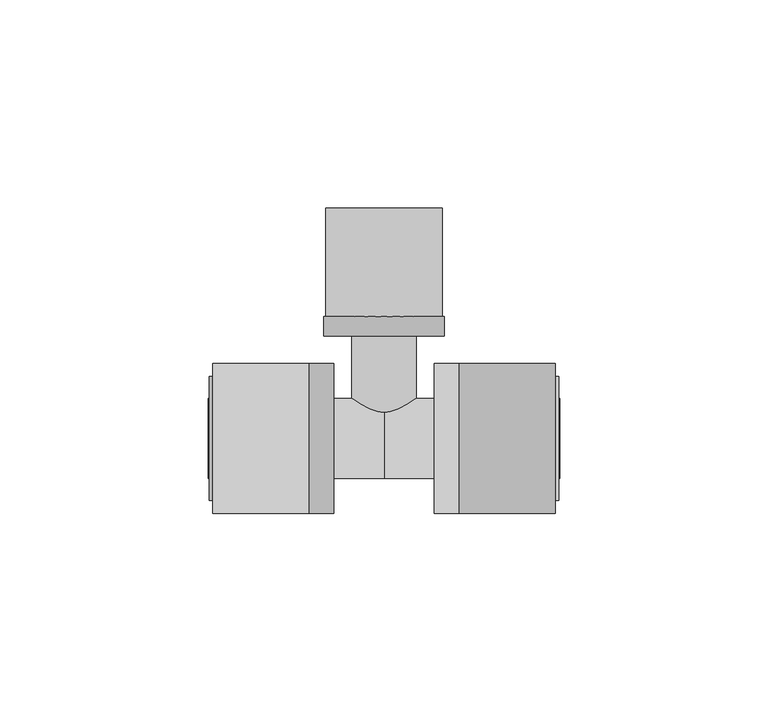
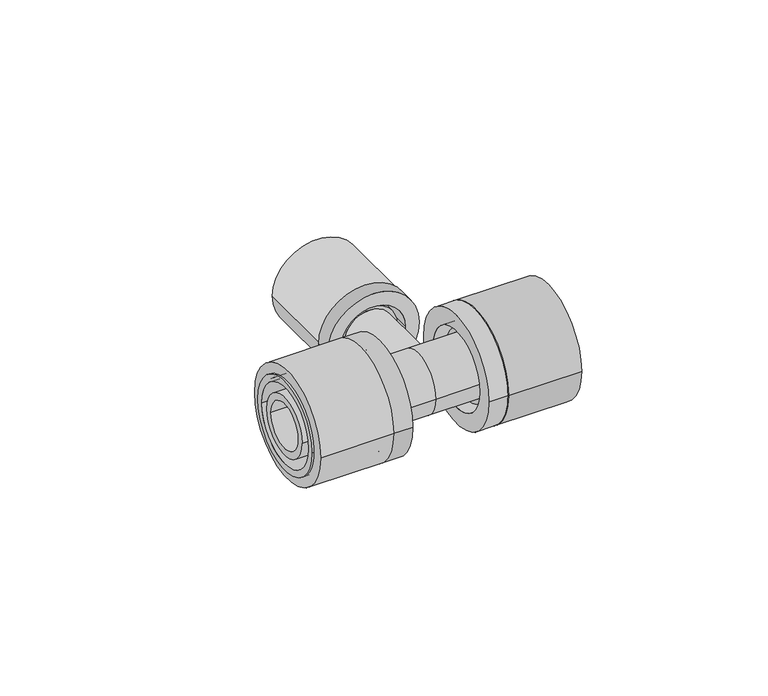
"""IFC4 building model written with IfcOpenShell, lengths in millimetres: pipe fitting geometry, FASTLOC_T-piece_LX : FSL T-Piece LX CZ."""

from ifc_helpers import new_model, si_unit, point, frame, origin, origin_2d, place, context, project, spatial, polyline, circle_curve, trimmed, segment, composite_curve, outline, extrude, source, transform, mapped, element, save
from ifc_brep_helpers import plane_surface, cylinder_surface, revolved_surface, advanced_brep


def pipe_fitting_d9a56b63(model_context):
    return source(origin(), model_context, "Body", "SolidModel", [
        extrude(outline(composite_curve([segment(trimmed(circle_curve(origin_2d(), 18.0), [point((-18.0, 0.0))], [point((18.0, 0.0))], False, "CARTESIAN"), True, "CONTINUOUS"), segment(trimmed(circle_curve(origin_2d(), 18.0), [point((18.0, 0.0))], [point((-18.0, 0.0))], False, "CARTESIAN"), True, "CONTINUOUS")], self_intersect=False), holes=[composite_curve([segment(trimmed(circle_curve(origin_2d(), 13.5), [point((-13.5, 0.0))], [point((13.5, 0.0))], True, "CARTESIAN"), True, "CONTINUOUS"), segment(trimmed(circle_curve(origin_2d(), 13.5), [point((13.5, 0.0))], [point((-13.5, 0.0))], True, "CARTESIAN"), True, "CONTINUOUS")], self_intersect=False)]), frame((18.1, 0.0, 0.0), z_axis=(1.0, 0.0, 0.0), x_axis=(0.0, 1.0, 0.0)), (0.0, 0.0, 1.0), 23.0),
        advanced_brep(
        [(18.1, 18.0, 0.0), (18.1, -18.0, 0.0), (12.1, -18.0, 0.0), (12.1, 18.0, 0.0), (41.9, 14.85, 0.0), (41.9, -14.85, 0.0), (18.1, -14.85, 0.0), (18.1, 14.85, 0.0), (12.1, 12.65, 0.0), (12.1, -12.65, 0.0), (41.9, -12.65, 0.0), (41.9, 12.65, 0.0)],
        [
            (0, 1, circle_curve(frame((18.1, 0.0, 0.0), z_axis=(-1.0, 0.0, 0.0), x_axis=(0.0, -1.0, 0.0)), 18.0)),
            (1, 2),
            (2, 3, circle_curve(frame((12.1, 0.0, 0.0), z_axis=(1.0, 0.0, 0.0), x_axis=(0.0, -1.0, 0.0)), 18.0)),
            (3, 0),
            (4, 5, circle_curve(frame((41.9, 0.0, 0.0), z_axis=(-1.0, 0.0, 0.0), x_axis=(0.0, -1.0, 0.0)), 14.85)),
            (5, 6),
            (6, 7, circle_curve(frame((18.1, 0.0, 0.0), z_axis=(1.0, 0.0, 0.0), x_axis=(0.0, -1.0, 0.0)), 14.85)),
            (7, 4),
            (8, 9, circle_curve(frame((12.1, 0.0, 0.0), z_axis=(-1.0, 0.0, 0.0), x_axis=(0.0, -1.0, 0.0)), 12.65)),
            (9, 10),
            (10, 11, circle_curve(frame((41.9, 0.0, 0.0), z_axis=(1.0, 0.0, 0.0), x_axis=(0.0, -1.0, 0.0)), 12.65)),
            (11, 8),
            (1, 0, circle_curve(frame((18.1, 0.0, 0.0), z_axis=(-1.0, 0.0, 0.0), x_axis=(0.0, 1.0, 0.0)), 18.0)),
            (3, 2, circle_curve(frame((12.1, 0.0, 0.0), z_axis=(1.0, 0.0, 0.0), x_axis=(0.0, 1.0, 0.0)), 18.0)),
            (6, 7, circle_curve(frame((18.1, 0.0, 0.0), z_axis=(-1.0, 0.0, 0.0), x_axis=(0.0, 1.0, 0.0)), 14.85)),
            (5, 4, circle_curve(frame((41.9, 0.0, 0.0), z_axis=(-1.0, 0.0, 0.0), x_axis=(0.0, 1.0, 0.0)), 14.85)),
            (10, 11, circle_curve(frame((41.9, 0.0, 0.0), z_axis=(-1.0, 0.0, 0.0), x_axis=(0.0, 1.0, 0.0)), 12.65)),
            (9, 8, circle_curve(frame((12.1, 0.0, 0.0), z_axis=(-1.0, 0.0, 0.0), x_axis=(0.0, 1.0, 0.0)), 12.65)),
        ],
        [
            cylinder_surface(frame((12.1, 0.0, 0.0), z_axis=(1.0, 0.0, 0.0), x_axis=(0.0, -1.0, 0.0)), 18.0),
            cylinder_surface(frame((12.1, 0.0, 0.0), z_axis=(1.0, 0.0, 0.0), x_axis=(0.0, -1.0, 0.0)), 14.85),
            revolved_surface(polyline([(41.9, -12.65, 0.0), (12.1, -12.65, 0.0)]), (12.1, 0.0, 0.0), (1.0, 0.0, 0.0)),
            cylinder_surface(frame((12.1, 0.0, 0.0), z_axis=(1.0, 0.0, 0.0), x_axis=(0.0, 1.0, 0.0)), 18.0),
            plane_surface(frame((18.1, 0.0, 0.0), z_axis=(1.0, 0.0, 0.0), x_axis=(0.0, 1.0, 0.0))),
            cylinder_surface(frame((12.1, 0.0, 0.0), z_axis=(1.0, 0.0, 0.0), x_axis=(0.0, 1.0, 0.0)), 14.85),
            plane_surface(frame((41.9, 0.0, 0.0), z_axis=(1.0, 0.0, 0.0), x_axis=(0.0, 1.0, 0.0))),
            revolved_surface(polyline([(41.9, 12.65, 0.0), (12.1, 12.65, 0.0)]), (12.1, 0.0, 0.0), (1.0, 0.0, 0.0)),
            plane_surface(frame((12.1, 0.0, 0.0), z_axis=(-1.0, 0.0, 0.0), x_axis=(0.0, 1.0, 0.0))),
        ],
        [
            (0, [[1, 2, 3, 4]]),
            (1, [[5, 6, 7, 8]]),
            (2, [[9, 10, 11, 12]]),
            (3, [[13, -4, 14, -2]]),
            (4, [[-13, -1], [15, -7]]),
            (5, [[16, -8, -15, -6]]),
            (6, [[-16, -5], [17, -11]]),
            (7, [[18, -12, -17, -10]]),
            (8, [[-14, -3], [-18, -9]]),
        ],
    ),
        extrude(outline(composite_curve([segment(trimmed(circle_curve(origin_2d(), 18.0), [point((18.0, 0.0))], [point((-18.0, 0.0))], False, "CARTESIAN"), True, "CONTINUOUS"), segment(trimmed(circle_curve(origin_2d(), 18.0), [point((-18.0, 0.0))], [point((18.0, 0.0))], False, "CARTESIAN"), True, "CONTINUOUS")], self_intersect=False), holes=[composite_curve([segment(trimmed(circle_curve(origin_2d(), 13.5), [point((13.5, 0.0))], [point((-13.5, 0.0))], True, "CARTESIAN"), True, "CONTINUOUS"), segment(trimmed(circle_curve(origin_2d(), 13.5), [point((-13.5, 0.0))], [point((13.5, 0.0))], True, "CARTESIAN"), True, "CONTINUOUS")], self_intersect=False)]), frame((-41.1, 0.0, 0.0), z_axis=(1.0, 0.0, 0.0), x_axis=(0.0, 1.0, 0.0)), (0.0, 0.0, 1.0), 23.0),
        advanced_brep(
        [(-18.1, -18.0, 0.0), (-18.1, 18.0, 0.0), (-12.1, 18.0, 0.0), (-12.1, -18.0, 0.0), (-41.9, -14.85, 0.0), (-41.9, 14.85, 0.0), (-18.1, 14.85, 0.0), (-18.1, -14.85, 0.0), (-12.1, -12.65, 0.0), (-12.1, 12.65, 0.0), (-41.9, 12.65, 0.0), (-41.9, -12.65, 0.0)],
        [
            (0, 1, circle_curve(frame((-18.1, 0.0, 0.0), z_axis=(1.0, 0.0, 0.0), x_axis=(0.0, 1.0, 0.0)), 18.0)),
            (1, 2),
            (2, 3, circle_curve(frame((-12.1, 0.0, 0.0), z_axis=(-1.0, 0.0, 0.0), x_axis=(0.0, 1.0, 0.0)), 18.0)),
            (3, 0),
            (4, 5, circle_curve(frame((-41.9, 0.0, 0.0), z_axis=(1.0, 0.0, 0.0), x_axis=(0.0, 1.0, 0.0)), 14.85)),
            (5, 6),
            (6, 7, circle_curve(frame((-18.1, 0.0, 0.0), z_axis=(-1.0, 0.0, 0.0), x_axis=(0.0, 1.0, 0.0)), 14.85)),
            (7, 4),
            (8, 9, circle_curve(frame((-12.1, 0.0, 0.0), z_axis=(1.0, 0.0, 0.0), x_axis=(0.0, 1.0, 0.0)), 12.65)),
            (9, 10),
            (10, 11, circle_curve(frame((-41.9, 0.0, 0.0), z_axis=(-1.0, 0.0, 0.0), x_axis=(0.0, 1.0, 0.0)), 12.65)),
            (11, 8),
            (1, 0, circle_curve(frame((-18.1, 0.0, 0.0), z_axis=(1.0, 0.0, 0.0), x_axis=(0.0, -1.0, 0.0)), 18.0)),
            (3, 2, circle_curve(frame((-12.1, 0.0, 0.0), z_axis=(-1.0, 0.0, 0.0), x_axis=(0.0, -1.0, 0.0)), 18.0)),
            (6, 7, circle_curve(frame((-18.1, 0.0, 0.0), z_axis=(1.0, 0.0, 0.0), x_axis=(0.0, -1.0, 0.0)), 14.85)),
            (5, 4, circle_curve(frame((-41.9, 0.0, 0.0), z_axis=(1.0, 0.0, 0.0), x_axis=(0.0, -1.0, 0.0)), 14.85)),
            (10, 11, circle_curve(frame((-41.9, 0.0, 0.0), z_axis=(1.0, 0.0, 0.0), x_axis=(0.0, -1.0, 0.0)), 12.65)),
            (9, 8, circle_curve(frame((-12.1, 0.0, 0.0), z_axis=(1.0, 0.0, 0.0), x_axis=(0.0, -1.0, 0.0)), 12.65)),
        ],
        [
            cylinder_surface(frame((-12.1, 0.0, 0.0), z_axis=(-1.0, 0.0, 0.0), x_axis=(0.0, 1.0, 0.0)), 18.0),
            cylinder_surface(frame((-12.1, 0.0, 0.0), z_axis=(-1.0, 0.0, 0.0), x_axis=(0.0, 1.0, 0.0)), 14.85),
            revolved_surface(polyline([(-41.9, 12.65, 0.0), (-12.1, 12.65, 0.0)]), (-12.1, 0.0, 0.0), (-1.0, 0.0, 0.0)),
            cylinder_surface(frame((-12.1, 0.0, 0.0), z_axis=(-1.0, 0.0, 0.0), x_axis=(0.0, -1.0, 0.0)), 18.0),
            plane_surface(frame((-18.1, 0.0, 0.0), z_axis=(-1.0, 0.0, 0.0), x_axis=(0.0, -1.0, 0.0))),
            cylinder_surface(frame((-12.1, 0.0, 0.0), z_axis=(-1.0, 0.0, 0.0), x_axis=(0.0, -1.0, 0.0)), 14.85),
            plane_surface(frame((-41.9, 0.0, 0.0), z_axis=(-1.0, 0.0, 0.0), x_axis=(0.0, -1.0, 0.0))),
            revolved_surface(polyline([(-41.9, -12.65, 0.0), (-12.1, -12.65, 0.0)]), (-12.1, 0.0, 0.0), (-1.0, 0.0, 0.0)),
            plane_surface(frame((-12.1, 0.0, 0.0), z_axis=(1.0, 0.0, 0.0), x_axis=(0.0, -1.0, 0.0))),
        ],
        [
            (0, [[1, 2, 3, 4]]),
            (1, [[5, 6, 7, 8]]),
            (2, [[9, 10, 11, 12]]),
            (3, [[13, -4, 14, -2]]),
            (4, [[-13, -1], [15, -7]]),
            (5, [[16, -8, -15, -6]]),
            (6, [[-16, -5], [17, -11]]),
            (7, [[18, -12, -17, -10]]),
            (8, [[-14, -3], [-18, -9]]),
        ],
    ),
        extrude(outline(composite_curve([segment(trimmed(circle_curve(origin_2d(), 14.0), [point((0.0, 14.0))], [point((0.0, -14.0))], False, "CARTESIAN"), True, "CONTINUOUS"), segment(trimmed(circle_curve(origin_2d(), 14.0), [point((0.0, -14.0))], [point((0.0, 14.0))], False, "CARTESIAN"), True, "CONTINUOUS")], self_intersect=False), holes=[composite_curve([segment(trimmed(circle_curve(origin_2d(), 10.7), [point((0.0, 10.7))], [point((0.0, -10.7))], True, "CARTESIAN"), True, "CONTINUOUS"), segment(trimmed(circle_curve(origin_2d(), 10.7), [point((0.0, -10.7))], [point((0.0, 10.7))], True, "CARTESIAN"), True, "CONTINUOUS")], self_intersect=False)]), frame((0.0, 29.2, 0.0), z_axis=(0.0, 1.0, 0.0), x_axis=(0.0, 0.0, 1.0)), (0.0, 0.0, 1.0), 26.0),
        advanced_brep(
        [(-14.5, 29.2, 0.0), (14.5, 29.2, 0.0), (14.5, 24.5, 0.0), (-14.5, 24.5, 0.0), (-11.85, 46.2, 0.0), (11.85, 46.2, 0.0), (11.85, 29.2, 0.0), (-11.85, 29.2, 0.0), (-10.15, 24.5, 0.0), (10.15, 24.5, 0.0), (10.15, 46.2, 0.0), (-10.15, 46.2, 0.0)],
        [
            (0, 1, circle_curve(frame((0.0, 29.2, 0.0), z_axis=(0.0, -1.0, 0.0), x_axis=(1.0, 0.0, 0.0)), 14.5)),
            (1, 2),
            (2, 3, circle_curve(frame((0.0, 24.5, 0.0), z_axis=(0.0, 1.0, 0.0), x_axis=(1.0, 0.0, 0.0)), 14.5)),
            (3, 0),
            (4, 5, circle_curve(frame((0.0, 46.2, 0.0), z_axis=(0.0, -1.0, 0.0), x_axis=(1.0, 0.0, 0.0)), 11.85)),
            (5, 6),
            (6, 7, circle_curve(frame((0.0, 29.2, 0.0), z_axis=(0.0, 1.0, 0.0), x_axis=(1.0, 0.0, 0.0)), 11.85)),
            (7, 4),
            (8, 9, circle_curve(frame((0.0, 24.5, 0.0), z_axis=(0.0, -1.0, 0.0), x_axis=(1.0, 0.0, 0.0)), 10.15)),
            (9, 10),
            (10, 11, circle_curve(frame((0.0, 46.2, 0.0), z_axis=(0.0, 1.0, 0.0), x_axis=(1.0, 0.0, 0.0)), 10.15)),
            (11, 8),
            (1, 0, circle_curve(frame((0.0, 29.2, 0.0), z_axis=(0.0, -1.0, 0.0), x_axis=(-1.0, 0.0, 0.0)), 14.5)),
            (3, 2, circle_curve(frame((0.0, 24.5, 0.0), z_axis=(0.0, 1.0, 0.0), x_axis=(-1.0, 0.0, 0.0)), 14.5)),
            (6, 7, circle_curve(frame((0.0, 29.2, 0.0), z_axis=(0.0, -1.0, 0.0), x_axis=(-1.0, 0.0, 0.0)), 11.85)),
            (5, 4, circle_curve(frame((0.0, 46.2, 0.0), z_axis=(0.0, -1.0, 0.0), x_axis=(-1.0, 0.0, 0.0)), 11.85)),
            (10, 11, circle_curve(frame((0.0, 46.2, 0.0), z_axis=(0.0, -1.0, 0.0), x_axis=(-1.0, 0.0, 0.0)), 10.15)),
            (9, 8, circle_curve(frame((0.0, 24.5, 0.0), z_axis=(0.0, -1.0, 0.0), x_axis=(-1.0, 0.0, 0.0)), 10.15)),
        ],
        [
            cylinder_surface(frame((0.0, 24.5, 0.0), z_axis=(0.0, 1.0, 0.0), x_axis=(1.0, 0.0, 0.0)), 14.5),
            cylinder_surface(frame((0.0, 24.5, 0.0), z_axis=(0.0, 1.0, 0.0), x_axis=(1.0, 0.0, 0.0)), 11.85),
            revolved_surface(polyline([(10.15, 46.2, 0.0), (10.15, 24.5, 0.0)]), (0.0, 24.5, 0.0), (0.0, 1.0, 0.0)),
            cylinder_surface(frame((0.0, 24.5, 0.0), z_axis=(0.0, 1.0, 0.0), x_axis=(-1.0, 0.0, 0.0)), 14.5),
            plane_surface(frame((0.0, 29.2, 0.0), z_axis=(0.0, 1.0, 0.0), x_axis=(-1.0, 0.0, 0.0))),
            cylinder_surface(frame((0.0, 24.5, 0.0), z_axis=(0.0, 1.0, 0.0), x_axis=(-1.0, 0.0, 0.0)), 11.85),
            plane_surface(frame((0.0, 46.2, 0.0), z_axis=(0.0, 1.0, 0.0), x_axis=(-1.0, 0.0, 0.0))),
            revolved_surface(polyline([(-10.15, 46.2, 0.0), (-10.15, 24.5, 0.0)]), (0.0, 24.5, 0.0), (0.0, 1.0, 0.0)),
            plane_surface(frame((0.0, 24.5, 0.0), z_axis=(0.0, -1.0, 0.0), x_axis=(-1.0, 0.0, 0.0))),
        ],
        [
            (0, [[1, 2, 3, 4]]),
            (1, [[5, 6, 7, 8]]),
            (2, [[9, 10, 11, 12]]),
            (3, [[13, -4, 14, -2]]),
            (4, [[-13, -1], [15, -7]]),
            (5, [[16, -8, -15, -6]]),
            (6, [[-16, -5], [17, -11]]),
            (7, [[18, -12, -17, -10]]),
            (8, [[-14, -3], [-18, -9]]),
        ],
    ),
        advanced_brep(
        [(0.0, 9.6, 0.0), (0.0, -9.6, 0.0), (-15.3, -9.6, 0.0), (-15.3, 9.6, 0.0), (15.3, 9.6, 0.0), (15.3, -9.6, 0.0), (18.1, 11.1, 0.0), (18.1, -11.1, 0.0), (15.3, -11.1, 0.0), (15.3, 11.1, 0.0), (42.1, 9.6, 0.0), (42.1, -9.6, 0.0), (18.1, -9.6, 0.0), (18.1, 9.6, 0.0), (-18.1, 9.6, 0.0), (-18.1, -9.6, 0.0), (-42.1, -9.6, 0.0), (-42.1, 9.6, 0.0), (-15.3, 11.1, 0.0), (-15.3, -11.1, 0.0), (-18.1, -11.1, 0.0), (-18.1, 11.1, 0.0), (42.1, -7.35, 0.0), (42.1, 7.35, 0.0), (-42.1, 7.35, 0.0), (-42.1, -7.35, 0.0), (0.0, 7.35, 0.0), (0.0, -7.35, 0.0)],
        [
            (0, 1, circle_curve(frame((0.0, 0.0, 0.0), z_axis=(-1.0, 0.0, 0.0), x_axis=(0.0, -1.0, 0.0)), 9.6)),
            (1, 2),
            (2, 3, circle_curve(frame((-15.3, 0.0, 0.0), z_axis=(1.0, 0.0, 0.0), x_axis=(0.0, -1.0, 0.0)), 9.6)),
            (3, 0),
            (4, 5, circle_curve(frame((15.3, 0.0, 0.0), z_axis=(-1.0, 0.0, 0.0), x_axis=(0.0, -1.0, 0.0)), 9.6)),
            (5, 1),
            (0, 4),
            (6, 7, circle_curve(frame((18.1, 0.0, 0.0), z_axis=(-1.0, 0.0, 0.0), x_axis=(0.0, -1.0, 0.0)), 11.1)),
            (7, 8),
            (8, 9, circle_curve(frame((15.3, 0.0, 0.0), z_axis=(1.0, 0.0, 0.0), x_axis=(0.0, -1.0, 0.0)), 11.1)),
            (9, 6),
            (10, 11, circle_curve(frame((42.1, 0.0, 0.0), z_axis=(-1.0, 0.0, 0.0), x_axis=(0.0, -1.0, 0.0)), 9.6)),
            (11, 12),
            (12, 13, circle_curve(frame((18.1, 0.0, 0.0), z_axis=(1.0, 0.0, 0.0), x_axis=(0.0, -1.0, 0.0)), 9.6)),
            (13, 10),
            (14, 15, circle_curve(frame((-18.1, 0.0, 0.0), z_axis=(-1.0, 0.0, 0.0), x_axis=(0.0, -1.0, 0.0)), 9.6)),
            (15, 16),
            (16, 17, circle_curve(frame((-42.1, 0.0, 0.0), z_axis=(1.0, 0.0, 0.0), x_axis=(0.0, -1.0, 0.0)), 9.6)),
            (17, 14),
            (18, 19, circle_curve(frame((-15.3, 0.0, 0.0), z_axis=(-1.0, 0.0, 0.0), x_axis=(0.0, -1.0, 0.0)), 11.1)),
            (19, 20),
            (20, 21, circle_curve(frame((-18.1, 0.0, 0.0), z_axis=(1.0, 0.0, 0.0), x_axis=(0.0, -1.0, 0.0)), 11.1)),
            (21, 18),
            (18, 19, circle_curve(frame((-15.3, 0.0, 0.0), z_axis=(1.0, 0.0, 0.0), x_axis=(0.0, 1.0, 0.0)), 11.1)),
            (2, 3, circle_curve(frame((-15.3, 0.0, 0.0), z_axis=(-1.0, 0.0, 0.0), x_axis=(0.0, 1.0, 0.0)), 9.6)),
            (1, 0, circle_curve(frame((0.0, 0.0, 0.0), z_axis=(-1.0, 0.0, 0.0), x_axis=(0.0, 1.0, 0.0)), 9.6)),
            (5, 4, circle_curve(frame((15.3, 0.0, 0.0), z_axis=(-1.0, 0.0, 0.0), x_axis=(0.0, 1.0, 0.0)), 9.6)),
            (8, 9, circle_curve(frame((15.3, 0.0, 0.0), z_axis=(-1.0, 0.0, 0.0), x_axis=(0.0, 1.0, 0.0)), 11.1)),
            (7, 6, circle_curve(frame((18.1, 0.0, 0.0), z_axis=(-1.0, 0.0, 0.0), x_axis=(0.0, 1.0, 0.0)), 11.1)),
            (12, 13, circle_curve(frame((18.1, 0.0, 0.0), z_axis=(-1.0, 0.0, 0.0), x_axis=(0.0, 1.0, 0.0)), 9.6)),
            (11, 10, circle_curve(frame((42.1, 0.0, 0.0), z_axis=(-1.0, 0.0, 0.0), x_axis=(0.0, 1.0, 0.0)), 9.6)),
            (22, 23, circle_curve(frame((42.1, 0.0, 0.0), z_axis=(-1.0, 0.0, 0.0), x_axis=(0.0, 1.0, 0.0)), 7.35)),
            (23, 22, circle_curve(frame((42.1, 0.0, 0.0), z_axis=(-1.0, 0.0, 0.0), x_axis=(0.0, -1.0, 0.0)), 7.35)),
            (16, 17, circle_curve(frame((-42.1, 0.0, 0.0), z_axis=(-1.0, 0.0, 0.0), x_axis=(0.0, 1.0, 0.0)), 9.6)),
            (24, 25, circle_curve(frame((-42.1, 0.0, 0.0), z_axis=(1.0, 0.0, 0.0), x_axis=(0.0, 1.0, 0.0)), 7.35)),
            (25, 24, circle_curve(frame((-42.1, 0.0, 0.0), z_axis=(1.0, 0.0, 0.0), x_axis=(0.0, -1.0, 0.0)), 7.35)),
            (15, 14, circle_curve(frame((-18.1, 0.0, 0.0), z_axis=(-1.0, 0.0, 0.0), x_axis=(0.0, 1.0, 0.0)), 9.6)),
            (20, 21, circle_curve(frame((-18.1, 0.0, 0.0), z_axis=(-1.0, 0.0, 0.0), x_axis=(0.0, 1.0, 0.0)), 11.1)),
            (26, 27, circle_curve(frame((0.0, 0.0, 0.0), z_axis=(-1.0, 0.0, 0.0), x_axis=(0.0, -1.0, 0.0)), 7.35)),
            (27, 22),
            (23, 26),
            (25, 27),
            (26, 24),
            (27, 26, circle_curve(frame((0.0, 0.0, 0.0), z_axis=(-1.0, 0.0, 0.0), x_axis=(0.0, 1.0, 0.0)), 7.35)),
        ],
        [
            cylinder_surface(frame((0.0, 0.0, 0.0), z_axis=(1.0, 0.0, 0.0), x_axis=(0.0, -1.0, 0.0)), 9.6),
            cylinder_surface(frame((0.0, 0.0, 0.0), z_axis=(1.0, 0.0, 0.0), x_axis=(0.0, -1.0, 0.0)), 11.1),
            plane_surface(frame((-15.3, 0.0, 0.0), z_axis=(1.0, 0.0, 0.0), x_axis=(0.0, 1.0, 0.0))),
            cylinder_surface(frame((0.0, 0.0, 0.0), z_axis=(1.0, 0.0, 0.0), x_axis=(0.0, 1.0, 0.0)), 9.6),
            plane_surface(frame((15.3, 0.0, 0.0), z_axis=(-1.0, 0.0, 0.0), x_axis=(0.0, 1.0, 0.0))),
            cylinder_surface(frame((0.0, 0.0, 0.0), z_axis=(1.0, 0.0, 0.0), x_axis=(0.0, 1.0, 0.0)), 11.1),
            plane_surface(frame((18.1, 0.0, 0.0), z_axis=(1.0, 0.0, 0.0), x_axis=(0.0, 1.0, 0.0))),
            plane_surface(frame((42.1, 0.0, 0.0), z_axis=(1.0, 0.0, 0.0), x_axis=(0.0, 1.0, 0.0))),
            plane_surface(frame((-42.1, 0.0, 0.0), z_axis=(-1.0, 0.0, 0.0), x_axis=(0.0, 1.0, 0.0))),
            plane_surface(frame((-18.1, 0.0, 0.0), z_axis=(-1.0, 0.0, 0.0), x_axis=(0.0, 1.0, 0.0))),
            revolved_surface(polyline([(42.1, -7.35, 0.0), (0.0, -7.35, 0.0)]), (0.0, 0.0, 0.0), (1.0, 0.0, 0.0)),
            revolved_surface(polyline([(0.0, -7.35, 0.0), (-42.1, -7.35, 0.0)]), (0.0, 0.0, 0.0), (1.0, 0.0, 0.0)),
            revolved_surface(polyline([(42.1, 7.35, 0.0), (0.0, 7.35, 0.0)]), (0.0, 0.0, 0.0), (1.0, 0.0, 0.0)),
            revolved_surface(polyline([(0.0, 7.35, 0.0), (-42.1, 7.35, 0.0)]), (0.0, 0.0, 0.0), (1.0, 0.0, 0.0)),
        ],
        [
            (0, [[1, 2, 3, 4]]),
            (0, [[5, 6, -1, 7]]),
            (1, [[8, 9, 10, 11]]),
            (0, [[12, 13, 14, 15]]),
            (0, [[16, 17, 18, 19]]),
            (1, [[20, 21, 22, 23]]),
            (2, [[24, -20], [25, -3]]),
            (3, [[26, -4, -25, -2]]),
            (3, [[27, -7, -26, -6]]),
            (4, [[28, -10], [-27, -5]]),
            (5, [[29, -11, -28, -9]]),
            (6, [[-29, -8], [30, -14]]),
            (3, [[31, -15, -30, -13]]),
            (7, [[-31, -12], [32, 33]]),
            (8, [[34, -18], [35, 36]]),
            (3, [[37, -19, -34, -17]]),
            (9, [[38, -22], [-37, -16]]),
            (5, [[-24, -23, -38, -21]]),
            (10, [[39, 40, -33, 41]]),
            (11, [[-36, 42, -39, 43]]),
            (12, [[44, -41, -32, -40]]),
            (13, [[-35, -43, -44, -42]]),
        ],
    ),
        advanced_brep(
        [(5.75, 46.6, 0.0), (-5.75, 46.6, 0.0), (-5.75, 0.0, 0.0), (5.75, 0.0, 0.0), (7.75, 0.0, 0.0), (-7.75, 0.0, 0.0), (-7.75, 26.53, 0.0), (7.75, 26.53, 0.0), (8.8, 26.53, 0.0), (-8.8, 26.53, 0.0), (-8.8, 29.2, 0.0), (8.8, 29.2, 0.0), (7.75, 29.2, 0.0), (-7.75, 29.2, 0.0), (-7.75, 46.6, 0.0), (7.75, 46.6, 0.0)],
        [
            (0, 1, circle_curve(frame((0.0, 46.6, 0.0), z_axis=(0.0, 1.0, 0.0), x_axis=(-1.0, 0.0, 0.0)), 5.75)),
            (1, 2),
            (2, 3, circle_curve(frame((0.0, 0.0, 0.0), z_axis=(0.0, -1.0, 0.0), x_axis=(-1.0, 0.0, 0.0)), 5.75)),
            (3, 0),
            (4, 5, circle_curve(frame((0.0, 0.0, 0.0), z_axis=(0.0, 1.0, 0.0), x_axis=(-1.0, 0.0, 0.0)), 7.75)),
            (5, 6),
            (6, 7, circle_curve(frame((0.0, 26.53, 0.0), z_axis=(0.0, -1.0, 0.0), x_axis=(-1.0, 0.0, 0.0)), 7.75)),
            (7, 4),
            (8, 9, circle_curve(frame((0.0, 26.53, 0.0), z_axis=(0.0, 1.0, 0.0), x_axis=(-1.0, 0.0, 0.0)), 8.8)),
            (9, 10),
            (10, 11, circle_curve(frame((0.0, 29.2, 0.0), z_axis=(0.0, -1.0, 0.0), x_axis=(-1.0, 0.0, 0.0)), 8.8)),
            (11, 8),
            (12, 13, circle_curve(frame((0.0, 29.2, 0.0), z_axis=(0.0, 1.0, 0.0), x_axis=(-1.0, 0.0, 0.0)), 7.75)),
            (13, 14),
            (14, 15, circle_curve(frame((0.0, 46.6, 0.0), z_axis=(0.0, -1.0, 0.0), x_axis=(-1.0, 0.0, 0.0)), 7.75)),
            (15, 12),
            (1, 0, circle_curve(frame((0.0, 46.6, 0.0), z_axis=(0.0, 1.0, 0.0), x_axis=(1.0, 0.0, 0.0)), 5.75)),
            (3, 2, circle_curve(frame((0.0, 0.0, 0.0), z_axis=(0.0, -1.0, 0.0), x_axis=(1.0, 0.0, 0.0)), 5.75)),
            (4, 5, circle_curve(frame((0.0, 0.0, 0.0), z_axis=(0.0, -1.0, 0.0), x_axis=(1.0, 0.0, 0.0)), 7.75)),
            (7, 6, circle_curve(frame((0.0, 26.53, 0.0), z_axis=(0.0, -1.0, 0.0), x_axis=(1.0, 0.0, 0.0)), 7.75)),
            (8, 9, circle_curve(frame((0.0, 26.53, 0.0), z_axis=(0.0, -1.0, 0.0), x_axis=(1.0, 0.0, 0.0)), 8.8)),
            (11, 10, circle_curve(frame((0.0, 29.2, 0.0), z_axis=(0.0, -1.0, 0.0), x_axis=(1.0, 0.0, 0.0)), 8.8)),
            (12, 13, circle_curve(frame((0.0, 29.2, 0.0), z_axis=(0.0, -1.0, 0.0), x_axis=(1.0, 0.0, 0.0)), 7.75)),
            (15, 14, circle_curve(frame((0.0, 46.6, 0.0), z_axis=(0.0, -1.0, 0.0), x_axis=(1.0, 0.0, 0.0)), 7.75)),
        ],
        [
            revolved_surface(polyline([(-5.75, 0.0, 0.0), (-5.75, 46.6, 0.0)]), (0.0, 0.0, 0.0), (0.0, -1.0, 0.0)),
            cylinder_surface(frame((0.0, 0.0, 0.0), z_axis=(0.0, -1.0, 0.0), x_axis=(-1.0, 0.0, 0.0)), 7.75),
            cylinder_surface(frame((0.0, 0.0, 0.0), z_axis=(0.0, -1.0, 0.0), x_axis=(-1.0, 0.0, 0.0)), 8.8),
            revolved_surface(polyline([(5.75, 0.0, 0.0), (5.75, 46.6, 0.0)]), (0.0, 0.0, 0.0), (0.0, -1.0, 0.0)),
            plane_surface(frame((0.0, 0.0, 0.0), z_axis=(0.0, -1.0, 0.0), x_axis=(1.0, 0.0, 0.0))),
            cylinder_surface(frame((0.0, 0.0, 0.0), z_axis=(0.0, -1.0, 0.0), x_axis=(1.0, 0.0, 0.0)), 7.75),
            plane_surface(frame((0.0, 26.53, 0.0), z_axis=(0.0, -1.0, 0.0), x_axis=(1.0, 0.0, 0.0))),
            cylinder_surface(frame((0.0, 0.0, 0.0), z_axis=(0.0, -1.0, 0.0), x_axis=(1.0, 0.0, 0.0)), 8.8),
            plane_surface(frame((0.0, 29.2, 0.0), z_axis=(0.0, 1.0, 0.0), x_axis=(1.0, 0.0, 0.0))),
            plane_surface(frame((0.0, 46.6, 0.0), z_axis=(0.0, 1.0, 0.0), x_axis=(1.0, 0.0, 0.0))),
        ],
        [
            (0, [[1, 2, 3, 4]]),
            (1, [[5, 6, 7, 8]]),
            (2, [[9, 10, 11, 12]]),
            (1, [[13, 14, 15, 16]]),
            (3, [[17, -4, 18, -2]]),
            (4, [[19, -5], [-18, -3]]),
            (5, [[-19, -8, 20, -6]]),
            (6, [[21, -9], [-20, -7]]),
            (7, [[-21, -12, 22, -10]]),
            (8, [[-22, -11], [23, -13]]),
            (5, [[-23, -16, 24, -14]]),
            (9, [[-24, -15], [-17, -1]]),
        ],
    ),
    ])


if __name__ == "__main__":
    model = new_model("IFC4")
    model_context = context("Model", 3, world=origin())
    ifc_project = project(units=[si_unit("LENGTHUNIT", "METRE", prefix="MILLI")], contexts=[model_context])
    site = spatial("IfcSite", under=ifc_project)
    building = spatial("IfcBuilding", under=site)
    placement = place(None, origin())
    pipe_fitting_shape = pipe_fitting_d9a56b63(model_context)
    element("IfcPipeFitting", 1, ObjectType="FASTLOC_T-piece_LX : FSL T-Piece LX CZ", at=placement, inside=building, context=model_context, shape_type="MappedRepresentation", body=[
        mapped(pipe_fitting_shape, transform((0.0, 0.0, 0.0), x_axis=(1.0, 0.0, 0.0), y_axis=(0.0, 1.0, 0.0), z_axis=(0.0, 0.0, 1.0))),
    ])
    save(model, "model.ifc")
